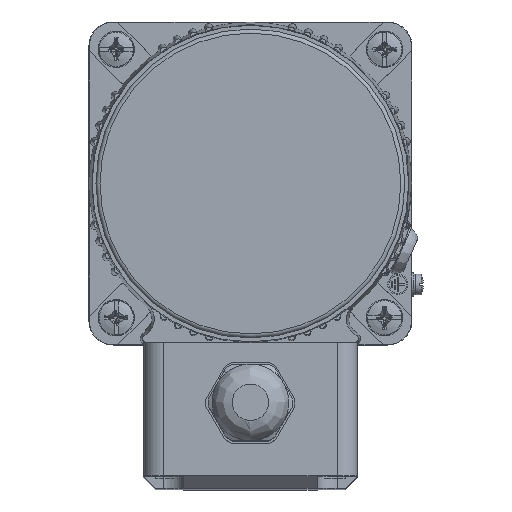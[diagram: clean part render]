
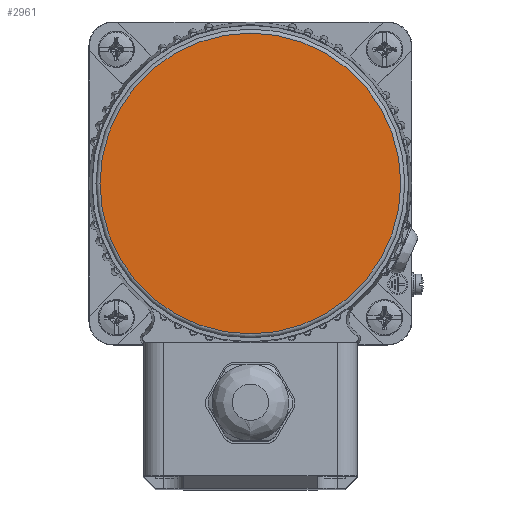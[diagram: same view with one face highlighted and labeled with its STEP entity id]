
A CAD part, left-side view. The second image highlights one B-rep face of the part: STEP entity #2961.
In plain terms, the highlighted planar face has unit normal (-1, 0, 0).
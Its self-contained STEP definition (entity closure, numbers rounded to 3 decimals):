
#2171=FACE_OUTER_BOUND('',#5734,.T.);
#2961=ADVANCED_FACE('',(#2171),#3486,.F.);
#3486=PLANE('',#15010);
#5734=EDGE_LOOP('',(#8765));
#8765=ORIENTED_EDGE('',*,*,#12965,.T.);
#11168=VERTEX_POINT('',#24168);
#12965=EDGE_CURVE('',#11168,#11168,#14161,.T.);
#14161=CIRCLE('',#15009,37.25);
#15009=AXIS2_PLACEMENT_3D('',#24167,#17238,#17239);
#15010=AXIS2_PLACEMENT_3D('',#24169,#17240,#17241);
#17238=DIRECTION('',(-1.,0.,0.));
#17239=DIRECTION('',(0.,0.,-1.));
#17240=DIRECTION('',(1.,0.,0.));
#17241=DIRECTION('',(0.,0.,-1.));
#24167=CARTESIAN_POINT('',(-86.,40.,40.));
#24168=CARTESIAN_POINT('',(-86.,40.,2.75));
#24169=CARTESIAN_POINT('',(-86.,40.,78.25));
